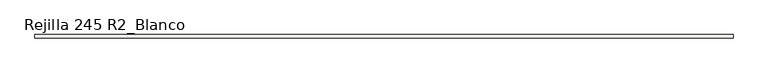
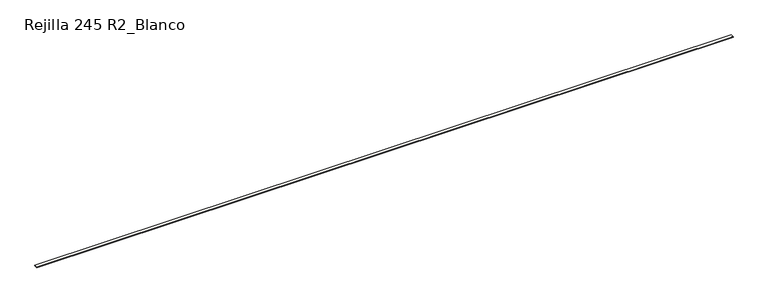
"""IFC4 building model written with IfcOpenShell, lengths in millimetres: slab geometry, ROSA GRES_245 R2_Blanco : Rejilla 245 R2_Blanco."""

from ifc_helpers import new_model, si_unit, frame, origin, place, context, project, spatial, polyline, outline, extrude, source, transform, mapped, element, save


def rejilla_245_r2_blanco_836b263a(model_context):
    return source(origin(), model_context, "Body", "SweptSolid", [
        extrude(outline(polyline([(-369.5908797, 206.3460936), (-411.8675475, 206.3460936), (-422.8675475, 195.3460936), (-561.3142119, 195.3460936), (-572.3142119, 206.3460936), (-614.5908797, 206.3460936), (-614.5908797, 228.3460936), (-369.5908797, 228.3460936), (-369.5908797, 206.3460936)])), frame((0.0, 0.0, 0.0), z_axis=(1.0, 0.0, 0.0), x_axis=(0.0, 1.0, 0.0)), (0.0, 0.0, 1.0), 50639.1817594),
    ])


if __name__ == "__main__":
    model = new_model("IFC4")
    model_context = context("Model", 3, world=origin())
    ifc_project = project(units=[si_unit("LENGTHUNIT", "METRE", prefix="MILLI")], contexts=[model_context])
    site = spatial("IfcSite", under=ifc_project)
    building = spatial("IfcBuilding", under=site)
    placement = place(None, origin())
    rejilla_245_r2_blanco_shape = rejilla_245_r2_blanco_836b263a(model_context)
    element("IfcSlab", 1, ObjectType="ROSA GRES_245 R2_Blanco : Rejilla 245 R2_Blanco", at=placement, inside=building, context=model_context, shape_type="MappedRepresentation", body=[
        mapped(rejilla_245_r2_blanco_shape, transform((0.0, 0.0, 0.0), x_axis=(1.0, 0.0, 0.0), y_axis=(0.0, 1.0, 0.0), z_axis=(0.0, 0.0, 1.0))),
    ])
    save(model, "model.ifc")
